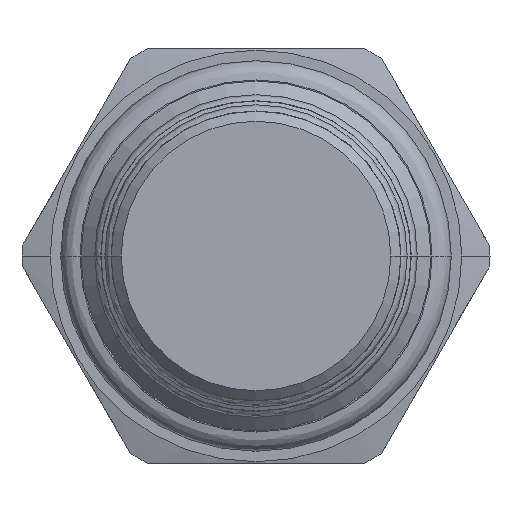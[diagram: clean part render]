
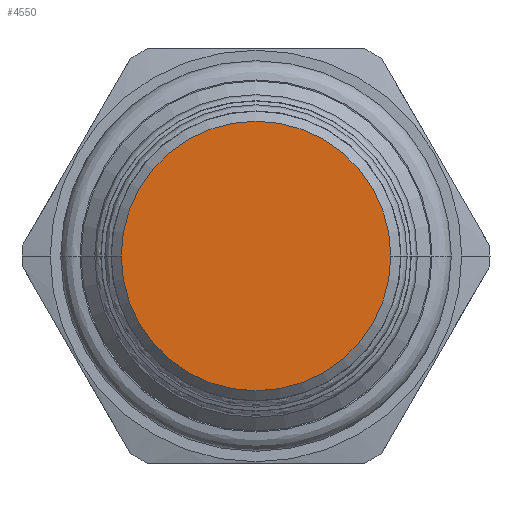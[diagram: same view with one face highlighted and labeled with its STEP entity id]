
A CAD part, front view. The second image highlights one B-rep face of the part: STEP entity #4550.
In plain terms, the highlighted planar face has unit normal (0, -1, 0).
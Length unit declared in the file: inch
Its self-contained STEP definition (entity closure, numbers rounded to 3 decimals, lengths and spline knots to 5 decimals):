
#1432=CARTESIAN_POINT('',(0.,-2.85867,0.));
#1433=DIRECTION('',(0.,1.,0.));
#1434=DIRECTION('',(-1.,0.,0.));
#1435=AXIS2_PLACEMENT_3D('',#1432,#1433,#1434);
#1442=CARTESIAN_POINT('',(0.,-2.85867,0.));
#1443=DIRECTION('',(0.,1.,0.));
#1444=DIRECTION('',(1.,0.,0.));
#1445=AXIS2_PLACEMENT_3D('',#1442,#1443,#1444);
#2275=CARTESIAN_POINT('',(-0.406,-2.85867,0.));
#2276=CARTESIAN_POINT('',(0.406,-2.85867,0.));
#2277=VERTEX_POINT('',#2275);
#2278=VERTEX_POINT('',#2276);
#4540=CARTESIAN_POINT('',(0.,-2.85867,0.));
#4541=DIRECTION('',(0.,-1.,0.));
#4542=DIRECTION('',(0.,0.,-1.));
#4543=AXIS2_PLACEMENT_3D('',#4540,#4541,#4542);
#4544=PLANE('',#4543);
#4546=ORIENTED_EDGE('',*,*,#4545,.T.);
#4547=ORIENTED_EDGE('',*,*,#4530,.T.);
#4548=EDGE_LOOP('',(#4546,#4547));
#4549=FACE_OUTER_BOUND('',#4548,.F.);
#4550=ADVANCED_FACE('',(#4549),#4544,.T.);
#1436=CIRCLE('',#1435,0.406);
#1446=CIRCLE('',#1445,0.406);
#4530=EDGE_CURVE('',#2277,#2278,#1436,.T.);
#4545=EDGE_CURVE('',#2278,#2277,#1446,.T.);
